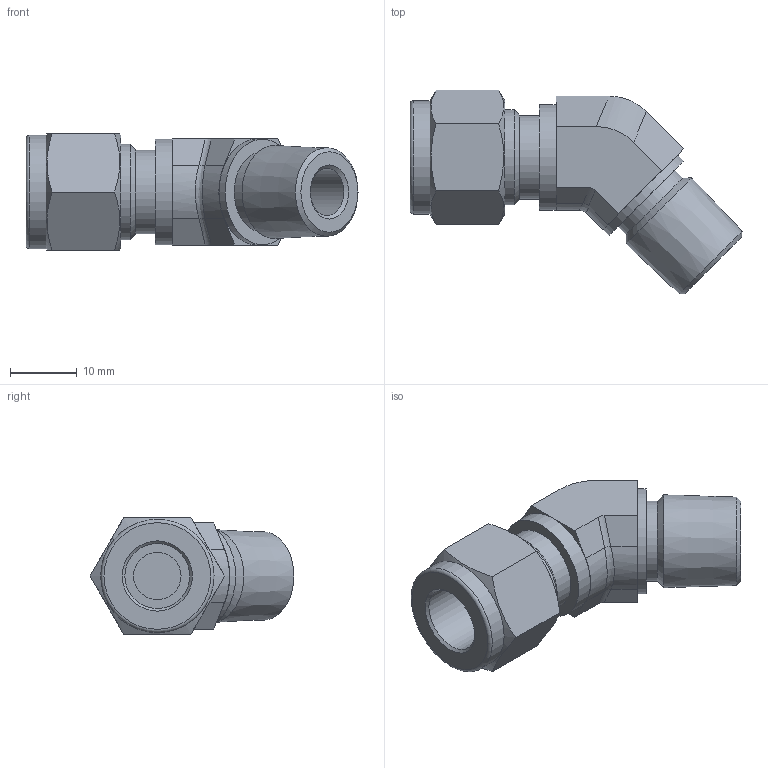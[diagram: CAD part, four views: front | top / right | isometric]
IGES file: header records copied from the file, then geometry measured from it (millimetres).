
Global section: file name: No Iges File Name specified; native system: Autodesk Inventor 2012; preprocessor: AutoDesk Inventor Iges Exporter R2012; author: 硅己绕,, ; organization: 11; date: 20150603.091926; units: millimetre
Bounding box: 49.79 x 30.56 x 17.46 mm (x, y, z)
Volume: 8175.4 mm3; surface area: 4277.7 mm2
Topology: 1 solids, 1 shells, 52 faces, 107 edges, 66 vertices
Faces by surface type: plane 27, cylinder 10, revolution 7, cone 6, bspline 1, torus 1
Full cylindrical faces by diameter (mm): 12 x1, 12.5 x1, 14.28 x1, 15.8 x2, 17 x1
